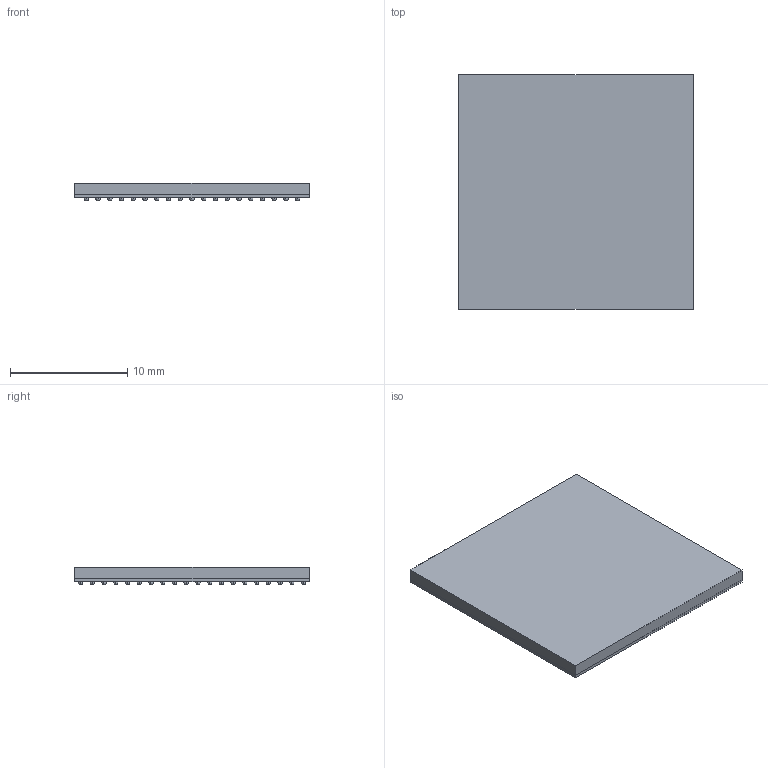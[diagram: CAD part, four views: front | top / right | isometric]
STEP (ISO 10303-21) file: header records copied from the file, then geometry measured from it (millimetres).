
FILE_DESCRIPTION (( 'STEP AP214' ), '1' );
FILE_NAME ('SD20439-000_POD_224FBGA_20.00X20.00_1.00_MAX 1.63T(1.00MM MOLD)_STEP.STEP', '2025-06-24T23:35:11', ( 'HD2022110801S' ), ( '' ), 'SwSTEP 2.0', 'SolidWorks 2022', '' );
FILE_SCHEMA (( 'AUTOMOTIVE_DESIGN' ));
Length unit declared in the file: millimetre
Products named in the file (4): SD20439-000_POD_224FBGA_20.00X20.00_1.00_MAX 1.63T(1.00MM MOLD)_STEP; Solder_Ball; Mold; Sub
Assembly tree (226 placements, depth 2):
  SD20439-000_POD_224FBGA_20.00X20.00_1.00_MAX 1.63T(1.00MM MOLD)_STEP
    Sub
    Mold
    Solder_Ball  x224
Bounding box: 20 x 20 x 1.53 mm (x, y, z)
Volume: 508.9 mm3; surface area: 1799 mm2
Topology: 226 solids, 226 shells, 2028 faces, 4728 edges, 3152 vertices
Faces by surface type: cylinder 896, plane 684, sphere 448
Entity records: 20312 total; most frequent: DIRECTION 4120, CARTESIAN_POINT 3216, ORIENTED_EDGE 2756, AXIS2_PLACEMENT_3D 1823, EDGE_CURVE 1378, VERTEX_POINT 919, EDGE_LOOP 915, CIRCLE 904
